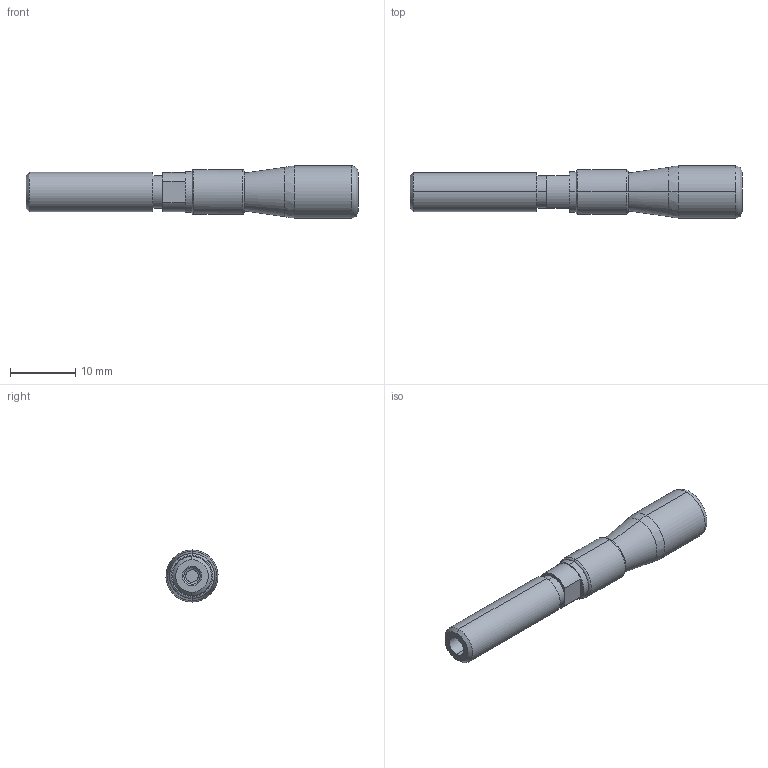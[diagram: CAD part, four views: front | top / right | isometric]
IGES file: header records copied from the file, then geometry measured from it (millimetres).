
Start section: ------------------------------------------------------------------------
Global section: file name: D:\ICADMX\tmp\trans3d_spg\TGMX25.1844.RBP006RCA_23152.igs; native system: spGate; preprocessor: ver11.3.7; author: Unknown; organization: Unknown; date: 150330.151215; units: millimetre
Bounding box: 51 x 7.99 x 8 mm (x, y, z)
Volume: 1652.2 mm3; surface area: 1390.5 mm2
Topology: 1 solids, 1 shells, 46 faces, 94 edges, 56 vertices
Faces by surface type: bspline 46
